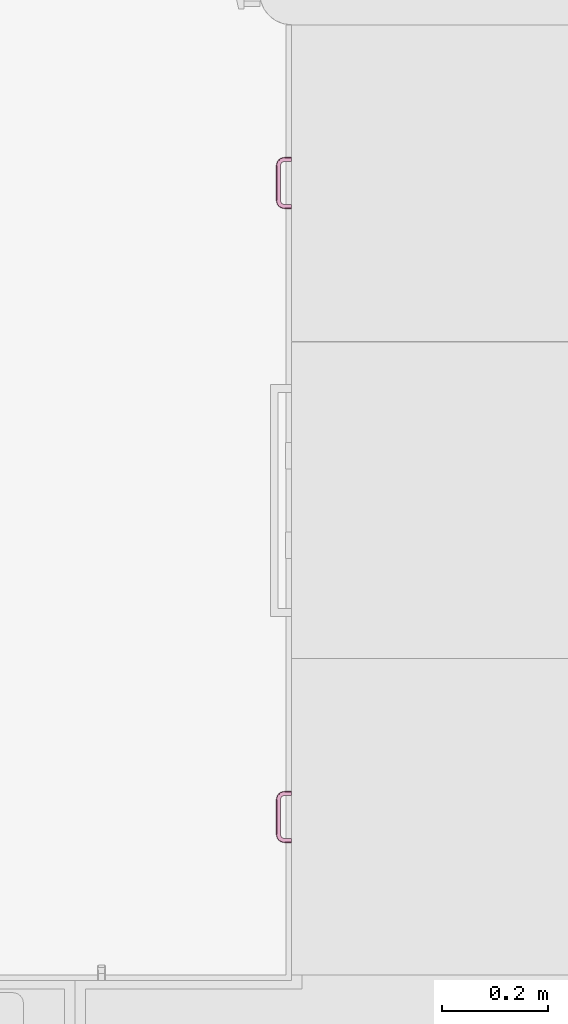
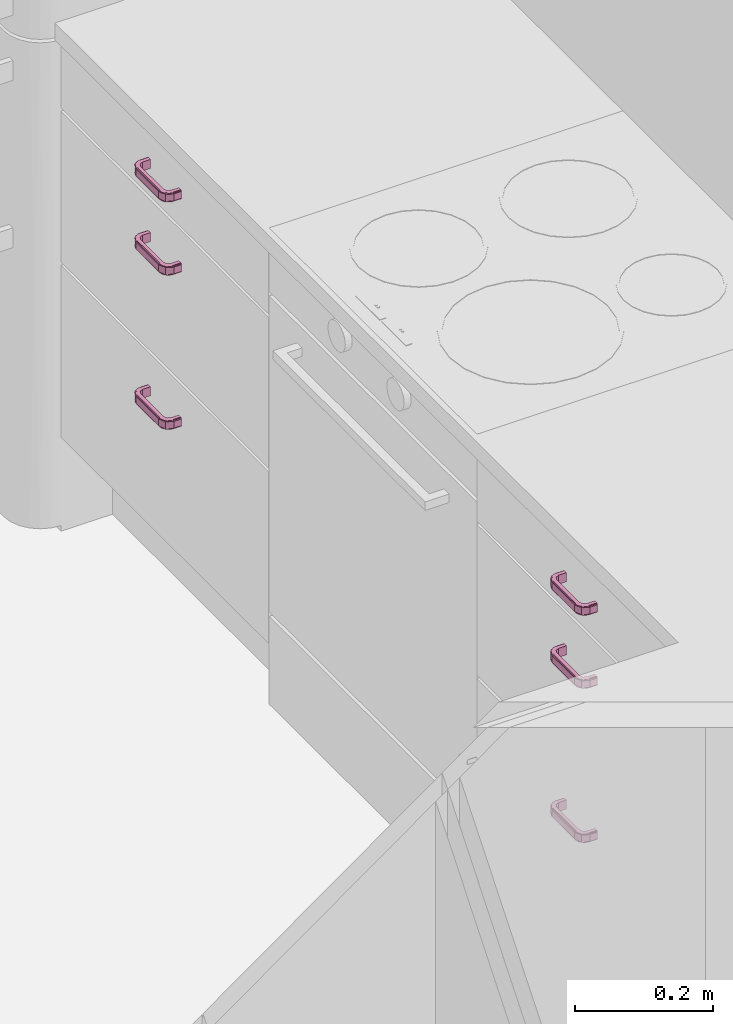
# One storey, part 48 of 65: 6 furnishings.
"""IFC2X3 building model written with IfcOpenShell, lengths in millimetres."""

from ifc_helpers import new_model, entity, si_unit, converted_unit, direction, frame, origin, place, context, subcontext, project, spatial, faceted_brep, source, transform, mapped, material, type_object, type_shapes, element, save


model = new_model("IFC2X3")

# Units and contexts
model_context = context("Model", 3, precision=0.01, world=origin(), true_north=direction((0.0, 1.0)))
body_context = subcontext(model_context, "Body", "Model", "MODEL_VIEW")
ifc_project = project(units=[si_unit("LENGTHUNIT", "METRE", prefix="MILLI"), si_unit("AREAUNIT", "SQUARE_METRE"), si_unit("VOLUMEUNIT", "CUBIC_METRE"), converted_unit("PLANEANGLEUNIT", "DEGREE", entity("IfcPlaneAngleMeasure", 0.017453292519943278), si_unit("PLANEANGLEUNIT", "RADIAN"), dimensions=[0, 0, 0, 0, 0, 0, 0])], contexts=[model_context])

# Site, building, storey, space
site_placement = place(None, origin())
site = spatial("IfcSite", under=ifc_project, at=site_placement, Name="Default", CompositionType="ELEMENT")
building_placement = place(site_placement, origin())
building = spatial("IfcBuilding", under=site, at=building_placement, CompositionType="ELEMENT")
storey_placement = place(building_placement, origin())
storey = spatial("IfcBuildingStorey", under=building, at=storey_placement, Name="Et. 1", CompositionType="ELEMENT", Elevation=0.0)
space_placement = place(storey_placement, origin())
space = spatial("IfcSpace", under=storey, at=space_placement, Name="105", CompositionType="ELEMENT", InteriorOrExteriorSpace="INTERNAL")

# Furnishings
ifc_material = material(Name="Focus - Kjøkken - Håndtak")
furniture_type = type_object("IfcFurnitureType", Name="Focus - Håndtak Skuff:Håndtak skuff", AssemblyPlace="NOTDEFINED", material=ifc_material)
shared_shape = source(origin(), body_context, "Body", "Brep", [
    faceted_brep([(-49.01997065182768, 0.0, -6.018434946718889), (-49.02222703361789, 0.0, 5.981564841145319), (-48.436706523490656, 0.0, 7.395888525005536), (-47.022603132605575, 0.0, 7.981940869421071), (-40.98040382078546, 0.0, 7.983076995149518), (-40.97739531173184, 0.0, -8.0169227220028), (-47.01959462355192, 0.0, -8.018058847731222), (-48.433918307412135, 0.0, -7.432538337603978), (47.022603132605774, 0.0, -8.000375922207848), (40.980403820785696, 0.0, -8.001512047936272), (40.97739531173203, 0.0, 7.9984876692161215), (47.01959462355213, 0.0, 7.999623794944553), (48.43391830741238, 0.0, 7.414103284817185), (49.01997065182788, 0.0, 5.999999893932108), (49.02222703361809, 0.0, -5.9999998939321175), (48.436706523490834, 0.0, -7.414323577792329), (-49.02222703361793, -13.0, 5.981564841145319), (-48.43670652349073, -13.0, 7.395888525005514), (-47.72965482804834, -13.0, 7.688914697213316), (-47.022603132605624, -13.0, 7.981940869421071), (-45.53091023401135, -16.601265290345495, 7.982221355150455), (-44.22341420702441, -19.757839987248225, 7.982467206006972), (-42.91591818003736, -22.91441468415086, 7.9827130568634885), (-40.437314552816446, -23.941085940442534, 7.983179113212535), (-37.95871092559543, -24.967757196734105, 7.983645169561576), (-35.48010729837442, -25.99442845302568, 7.9841112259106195), (-33.0015036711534, -27.02109970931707, 7.984577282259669), (-20.656464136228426, -27.021099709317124, 7.9868985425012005), (-8.311424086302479, -27.02109970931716, 7.989219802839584), (2.0160558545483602, -27.02109970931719, 7.991161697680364), (12.343535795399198, -27.02109970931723, 7.993103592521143), (20.653455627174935, -27.02109970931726, 7.9946661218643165), (32.9984951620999, -27.021099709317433, 7.996987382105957), (36.599760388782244, -25.529406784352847, 7.997664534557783), (39.75633502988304, -24.221910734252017, 7.9982580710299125), (42.912909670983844, -22.914414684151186, 7.998851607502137), (43.939580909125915, -20.435811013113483, 7.9990446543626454), (44.966252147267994, -17.957207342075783, 7.999237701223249), (45.99292338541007, -15.478603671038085, 7.999430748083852), (47.01959462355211, -13.0, 7.9996237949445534), (40.97739531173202, -13.0, 7.998487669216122), (38.64042956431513, -18.64193450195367, 7.998048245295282), (32.998495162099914, -20.97890029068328, 7.996987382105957), (-33.00150367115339, -20.978900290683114, 7.984577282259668), (-38.64343807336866, -18.64193450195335, 7.983516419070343), (-40.980403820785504, -13.0, 7.983076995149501), (-40.97739531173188, -13.0, -8.016922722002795), (47.022603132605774, -13.0, -8.000375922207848), (45.53091021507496, -16.601265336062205, -8.000656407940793), (44.2234141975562, -19.757840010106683, -8.000902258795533), (42.915918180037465, -22.914414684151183, -8.001148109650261), (40.43731455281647, -23.941085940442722, -8.001614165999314), (37.95871092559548, -24.967757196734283, -8.002080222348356), (35.4801072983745, -25.994428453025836, -8.002546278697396), (33.00150367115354, -27.021099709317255, -8.003012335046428), (20.656463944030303, -27.021099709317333, -8.005333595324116), (10.32898409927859, -27.02109970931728, -8.007275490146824), (0.0015042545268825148, -27.021099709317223, -8.009217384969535), (-10.325975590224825, -27.021099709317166, -8.011159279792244), (-20.653455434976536, -27.02109970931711, -8.013101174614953), (-32.998495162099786, -27.021099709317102, -8.01542243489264), (-36.599760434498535, -25.52940676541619, -8.016099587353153), (-39.75633505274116, -24.221910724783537, -8.016693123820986), (-42.91290967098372, -22.91441468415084, -8.017286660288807), (-43.939580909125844, -20.435811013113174, -8.01747970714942), (-44.966252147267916, -17.957207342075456, -8.017672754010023), (-45.992923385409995, -15.478603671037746, -8.017865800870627), (-47.01959462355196, -13.0, -8.01805884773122), (-38.64042956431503, -18.64193450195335, -8.01648329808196), (-32.99849516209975, -20.97890029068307, -8.01542243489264), (33.001503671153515, -20.978900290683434, -8.003012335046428), (38.64343807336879, -18.641934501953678, -8.00195147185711), (40.980403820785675, -13.0, -8.001512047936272), (-48.4339183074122, -13.0, -7.4325383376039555), (-48.80321719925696, -13.0, -6.541445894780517), (-49.0199706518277, -13.0, -6.018434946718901), (-44.41297448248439, -22.641402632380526, 7.75925959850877), (-46.35897290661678, -19.75591674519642, 7.743265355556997), (-40.20740985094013, -25.95405539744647, 7.81524837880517), (-44.3297556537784, -24.328628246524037, 5.9824471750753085), (-42.26670687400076, -25.1831710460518, 5.982835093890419), (-43.381530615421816, -25.002953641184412, 6.747992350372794), (-46.0388412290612, -20.202530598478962, 5.982125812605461), (-45.57655804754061, -22.341444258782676, 7.121035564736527), (-47.86558988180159, -17.923500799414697, 7.130313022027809), (-38.60103139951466, -27.651919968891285, 7.092454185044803), (-40.20365809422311, -26.037713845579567, 5.98322301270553), (-38.66544163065, -26.674863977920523, 5.983512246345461), (-36.60239285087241, -27.529406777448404, 5.983900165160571), (-41.08758750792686, -26.597477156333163, 6.856637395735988), (-41.49759864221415, -25.501746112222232, 5.982979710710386), (-36.52529670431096, -27.454202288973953, 7.791261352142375), (-47.50416098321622, -16.529274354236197, 7.765454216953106), (-47.530534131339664, -16.601265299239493, 5.981845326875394), (-42.18138620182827, -25.408731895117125, 7.397064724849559), (-45.50287349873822, -21.49647118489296, 5.982226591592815), (-33.00122595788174, -28.80444460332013, 6.5076290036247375), (-35.69791310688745, -28.538770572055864, 6.952460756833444), (-35.83328461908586, -27.847981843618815, 5.984044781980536), (-33.00112760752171, -29.021099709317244, 5.984577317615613), (-33.001393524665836, -28.435313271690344, 7.398790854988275), (-46.675991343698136, -18.66431412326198, 5.98200600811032), (-47.5282777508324, -16.601265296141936, -6.018154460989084), (-47.84685280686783, -15.832157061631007, -6.018214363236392), (-36.527810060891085, -27.502698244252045, -7.799689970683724), (-39.75445657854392, -26.35751445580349, -7.77789246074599), (-47.6505824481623, -18.599695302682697, -7.127107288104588), (-46.03658484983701, -20.202530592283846, -6.017873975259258), (-46.67373496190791, -18.66431412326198, -6.017993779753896), (-47.70896034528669, -16.048754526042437, -7.749127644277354), (-46.59154452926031, -19.340507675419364, -7.762569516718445), (-46.373359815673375, -21.540484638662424, -6.783304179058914), (-45.18204206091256, -22.26557941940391, -6.017713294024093), (-45.500617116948, -21.49647118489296, -6.017773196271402), (-37.92215596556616, -27.864246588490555, -7.16487889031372), (-42.34010114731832, -25.57521654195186, -7.156001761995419), (-40.20140170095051, -26.037713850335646, -6.016776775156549), (-45.407337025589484, -22.179992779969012, -7.431969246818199), (-42.63993947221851, -24.41151305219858, -7.794063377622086), (-44.52051892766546, -23.855367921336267, -6.870601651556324), (-32.998605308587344, -28.43531327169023, -7.429636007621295), (-36.600136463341, -27.529406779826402, -6.016099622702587), (-41.49534226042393, -25.501746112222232, -6.0170200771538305), (-44.327499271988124, -24.32862824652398, -6.017552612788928), (-32.99855023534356, -27.728206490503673, -7.7225292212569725), (-48.53745944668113, -15.696603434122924, -6.986734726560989), (-32.99887122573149, -29.021099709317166, -6.015422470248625), (-38.663185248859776, -26.674863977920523, -6.016487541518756), (-15.492613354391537, -28.43531328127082, 7.402083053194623), (20.6538311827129, -29.021099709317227, 5.994666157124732), (32.99860530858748, -28.435313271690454, 7.4112009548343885), (16.49860559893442, -28.435313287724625, 7.408098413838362), (-3.14758080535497, -28.397558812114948, 7.441176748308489), (32.99855023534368, -27.728206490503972, 7.704094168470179), (32.99887122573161, -29.02109970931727, 5.996987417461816), (-20.65608796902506, -29.0210997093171, 5.986898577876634), (-10.328607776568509, -29.02109970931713, 5.988840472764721), (10.326351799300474, -29.02109970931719, 5.99272426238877), (-0.0011279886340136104, -29.021099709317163, 5.990782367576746), (-15.489824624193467, -28.435313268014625, -7.426343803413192), (-8.308791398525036, -29.02109970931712, -6.010779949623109), (-20.653831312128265, -29.02109970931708, -6.013101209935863), (20.656087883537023, -29.021099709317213, -6.005333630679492), (12.346168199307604, -29.02109970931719, -6.006896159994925), (2.0186884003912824, -29.021099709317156, -6.008838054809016), (16.501393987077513, -28.435313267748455, -7.42032843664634), (33.001393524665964, -28.43531327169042, -7.417225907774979), (33.00122595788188, -28.80444460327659, -6.526064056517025), (33.00112760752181, -29.021099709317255, -6.003012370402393), (-3.1447921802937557, -28.47208571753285, -7.386268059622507), (42.6399395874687, -24.41151297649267, 7.7756283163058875), (39.75445668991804, -26.3575143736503, 7.759457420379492), (45.95258191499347, -20.20593789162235, 7.831449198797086), (44.32749927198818, -24.328628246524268, 5.999117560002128), (45.18204205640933, -22.26557943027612, 5.999278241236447), (45.00168074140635, -23.380259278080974, 6.764611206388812), (40.20140169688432, -26.03771385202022, 5.998341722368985), (42.340101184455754, -25.575216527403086, 7.137566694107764), (37.9221559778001, -27.86424657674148, 7.146443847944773), (47.65058242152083, -18.599695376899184, 7.108672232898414), (46.03658484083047, -20.20253061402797, 5.999438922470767), (46.67373496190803, -18.664314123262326, 5.999558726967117), (47.528277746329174, -16.60126530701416, 5.9997194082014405), (46.596183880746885, -21.08629578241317, 6.8731247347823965), (45.500617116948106, -21.4964711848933, 5.999338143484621), (47.452733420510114, -16.52382932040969, 7.8070518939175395), (36.52781014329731, -27.502698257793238, 7.781254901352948), (36.60013646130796, -27.52940678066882, 5.997664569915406), (45.40733698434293, -22.17999283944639, 7.413534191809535), (41.49534226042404, -25.501746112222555, 5.998585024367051), (48.80321719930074, -13.0, 6.523010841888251), (48.53745943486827, -15.696603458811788, 6.968299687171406), (47.84685280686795, -15.832157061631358, 5.999779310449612), (49.01997065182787, -13.0, 5.999999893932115), (48.43391830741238, -13.0, 7.414103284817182), (38.66318524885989, -26.674863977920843, 5.998052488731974), (36.60239284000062, -27.52940678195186, -6.002335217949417), (35.83328461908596, -27.847981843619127, -6.002479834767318), (47.504160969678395, -16.529274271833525, -7.783889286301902), (46.35897298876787, -19.755916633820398, -7.761700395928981), (38.60103132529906, -27.651919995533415, -7.110889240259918), (40.20365807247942, -26.037713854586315, -6.00165806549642), (38.66544163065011, -26.67486397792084, -6.001947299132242), (36.050207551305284, -27.710414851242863, -7.733378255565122), (39.34196320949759, -26.593001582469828, -7.746411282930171), (41.54175600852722, -26.374632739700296, -6.766773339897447), (42.26670686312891, -25.183171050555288, -6.001270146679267), (41.49759864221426, -25.501746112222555, -6.001414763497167), (47.86558989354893, -17.923500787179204, -7.148748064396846), (45.57655806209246, -22.341444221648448, -7.139470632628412), (46.03884122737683, -20.20253060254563, -6.000560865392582), (42.18138614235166, -25.408731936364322, -7.415499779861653), (44.412974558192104, -22.64140251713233, -7.777694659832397), (43.85665573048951, -24.521808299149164, -6.85398393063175), (48.436706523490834, -13.0, -7.414323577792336), (47.530534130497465, -16.601265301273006, -6.000280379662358), (45.50287349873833, -21.496471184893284, -6.000661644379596), (44.3297556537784, -24.32862824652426, -6.000882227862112), (47.729654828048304, -13.0, -7.707349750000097), (35.697913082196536, -28.538770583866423, -6.9708957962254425), (49.02222703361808, -13.0, -5.999999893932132), (46.675991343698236, -18.6643141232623, -6.000441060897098)], [[[0, 1, 2, 3, 4, 5, 6, 7]], [[8, 9, 10, 11, 12, 13, 14, 15]], [[16, 17, 2, 1]], [[2, 17, 18, 19, 3]], [[4, 3, 19, 20, 21, 22, 23, 24, 25, 26, 27, 28, 29, 30, 31, 32, 33, 34, 35, 36, 37, 38, 39, 11, 10, 40, 41, 42, 43, 44, 45]], [[5, 4, 45, 46]], [[9, 8, 47, 48, 49, 50, 51, 52, 53, 54, 55, 56, 57, 58, 59, 60, 61, 62, 63, 64, 65, 66, 67, 6, 5, 46, 68, 69, 70, 71, 72]], [[67, 73, 7, 6]], [[7, 73, 74, 75, 0]], [[1, 0, 75, 16]], [[76, 21, 77]], [[78, 24, 23]], [[79, 80, 81]], [[82, 83, 84]], [[85, 86, 87, 88]], [[89, 80, 90, 86]], [[91, 24, 78]], [[92, 77, 20]], [[17, 93, 84]], [[94, 89, 85]], [[83, 82, 95, 79]], [[88, 96, 97]], [[77, 84, 83]], [[23, 76, 78]], [[89, 94, 81]], [[22, 76, 23]], [[92, 17, 84]], [[19, 18, 17, 92]], [[96, 88, 98, 99]], [[100, 26, 91]], [[76, 77, 83]], [[20, 19, 92]], [[94, 76, 83]], [[21, 76, 22]], [[21, 20, 77]], [[84, 77, 92]], [[93, 17, 16]], [[84, 93, 101, 82]], [[94, 83, 81]], [[83, 79, 81]], [[80, 89, 81]], [[86, 85, 89]], [[76, 94, 78]], [[94, 85, 78]], [[91, 78, 85]], [[85, 97, 91]], [[91, 26, 25, 24]], [[97, 96, 100]], [[91, 97, 100]], [[88, 97, 85]], [[44, 68, 46, 45]], [[43, 69, 68, 44]], [[74, 102, 103, 75]], [[104, 105, 61]], [[106, 107, 108, 102]], [[109, 110, 106]], [[111, 112, 113, 107]], [[105, 114, 115]], [[115, 114, 116]], [[110, 64, 117]], [[118, 62, 105]], [[106, 110, 117]], [[117, 119, 111]], [[120, 121, 114]], [[115, 116, 122, 123]], [[112, 111, 119]], [[111, 106, 117]], [[63, 118, 64]], [[104, 120, 114]], [[60, 124, 120, 104]], [[109, 125, 73]], [[125, 109, 106]], [[118, 105, 115]], [[61, 60, 104]], [[118, 115, 119]], [[62, 118, 63]], [[62, 61, 105]], [[114, 105, 104]], [[121, 120, 126]], [[114, 121, 127, 116]], [[106, 111, 107]], [[118, 119, 117]], [[115, 123, 119]], [[112, 119, 123]], [[64, 118, 117]], [[125, 74, 73]], [[102, 74, 125]], [[102, 125, 106]], [[73, 67, 109]], [[66, 65, 64, 110]], [[110, 109, 66]], [[109, 67, 66]], [[122, 116, 127, 121, 126, 99, 98, 88, 87, 86, 90, 80, 79, 123]], [[79, 95, 82, 101, 93, 16, 75, 103, 102, 108, 107, 113, 112, 123]], [[128, 27, 100]], [[129, 130, 131]], [[29, 132, 131]], [[31, 130, 133, 32]], [[27, 26, 100]], [[129, 134, 130]], [[135, 100, 96, 99]], [[128, 100, 135, 136]], [[31, 30, 29, 131]], [[136, 132, 128]], [[31, 131, 130]], [[28, 27, 128]], [[132, 137, 131]], [[28, 132, 29]], [[136, 138, 137, 132]], [[28, 128, 132]], [[137, 129, 131]], [[69, 43, 42, 70]], [[139, 140, 141, 126, 120]], [[142, 143, 144, 145, 146, 147, 148]], [[55, 146, 145, 56]], [[139, 59, 58]], [[144, 149, 145]], [[55, 54, 146]], [[139, 120, 124, 60, 59]], [[58, 149, 139]], [[149, 56, 145]], [[140, 149, 144]], [[58, 57, 56, 149]], [[140, 139, 149]], [[126, 141, 140, 144, 143, 142, 148, 134, 129, 137, 138, 136, 135, 99]], [[150, 34, 151]], [[152, 37, 36]], [[153, 154, 155]], [[156, 157, 158]], [[159, 160, 161, 162]], [[163, 154, 164, 160]], [[165, 37, 152]], [[166, 151, 33]], [[130, 167, 158]], [[168, 163, 159]], [[157, 156, 169, 153]], [[162, 170, 171]], [[151, 158, 157]], [[36, 150, 152]], [[163, 168, 155]], [[35, 150, 36]], [[166, 130, 158]], [[32, 133, 130, 166]], [[170, 162, 172, 173]], [[174, 39, 165]], [[150, 151, 157]], [[33, 32, 166]], [[168, 150, 157]], [[34, 150, 35]], [[34, 33, 151]], [[158, 151, 166]], [[167, 130, 134]], [[158, 167, 175, 156]], [[168, 157, 155]], [[157, 153, 155]], [[154, 163, 155]], [[160, 159, 163]], [[150, 168, 152]], [[168, 159, 152]], [[165, 152, 159]], [[159, 171, 165]], [[165, 39, 38, 37]], [[171, 170, 174]], [[165, 171, 174]], [[162, 171, 159]], [[41, 71, 70, 42]], [[40, 72, 71, 41]], [[147, 176, 177, 148]], [[178, 179, 48]], [[180, 181, 182, 176]], [[183, 184, 180]], [[185, 186, 187, 181]], [[179, 188, 189]], [[189, 188, 190]], [[184, 51, 191]], [[192, 49, 179]], [[180, 184, 191]], [[191, 193, 185]], [[194, 195, 188]], [[189, 190, 196, 197]], [[186, 185, 193]], [[193, 191, 192]], [[50, 192, 51]], [[178, 194, 188]], [[47, 198, 194, 178]], [[183, 199, 146]], [[199, 183, 180]], [[192, 179, 189]], [[48, 47, 178]], [[192, 189, 193]], [[49, 192, 50]], [[49, 48, 179]], [[188, 179, 178]], [[195, 194, 200]], [[188, 195, 201, 190]], [[181, 180, 185]], [[180, 191, 185]], [[189, 197, 193]], [[186, 193, 197]], [[51, 192, 191]], [[199, 147, 146]], [[176, 147, 199]], [[176, 199, 180]], [[146, 54, 183]], [[53, 52, 51, 184]], [[184, 183, 53]], [[183, 54, 53]], [[196, 190, 201, 195, 200, 173, 172, 162, 161, 160, 164, 154, 153, 197]], [[153, 169, 156, 175, 167, 134, 148, 177, 176, 182, 181, 187, 186, 197]], [[13, 12, 174, 170, 173]], [[174, 12, 11, 39]], [[72, 40, 10, 9]], [[8, 15, 194, 198, 47]], [[194, 15, 14, 200]], [[173, 200, 14, 13]]]),
])
type_shapes(furniture_type, [shared_shape])
for number, where, z_axis, x_axis, name in (
    (1, (21442.009586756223, 11654.18095768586, 805.0), (0.0, 0.0, 1.0), (0.0, -1.0, 0.0), "Focus - Håndtak Skuff:Håndtak skuff"),
    (2, (21442.009586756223, 11654.180957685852, 676.0), (0.0, 0.0, 1.0), (0.0, -1.0, 0.0), "Focus - Håndtak Skuff:Håndtak skuff"),
    (3, (21442.009586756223, 11654.180957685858, 404.0), (0.0, 0.0, 1.0), (0.0, -1.0, 0.0), "Focus - Håndtak Skuff:Håndtak skuff"),
    (4, (21442.00958675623, 12856.058719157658, 805.0), (0.0, 0.0, 1.0), (0.0, -1.0, 0.0), "Focus - Håndtak Skuff:Håndtak skuff"),
    (5, (21442.00958675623, 12856.058719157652, 676.0), (0.0, 0.0, 1.0), (0.0, -1.0, 0.0), "Focus - Håndtak Skuff:Håndtak skuff"),
    (6, (21442.00958675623, 12856.058719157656, 404.0), (0.0, 0.0, 1.0), (0.0, -1.0, 0.0), "Focus - Håndtak Skuff:Håndtak skuff"),
):
    element("IfcFurnishingElement", number, at=place(space_placement, frame(where, z_axis=z_axis, x_axis=x_axis)), inside=space, type_object=furniture_type, material=ifc_material, Name=name, context=body_context, shape_type="MappedRepresentation", body=[
        mapped(shared_shape, transform((0.0, 0.0, 0.0), scale=1.0)),
    ])

save(model, "model.ifc")
